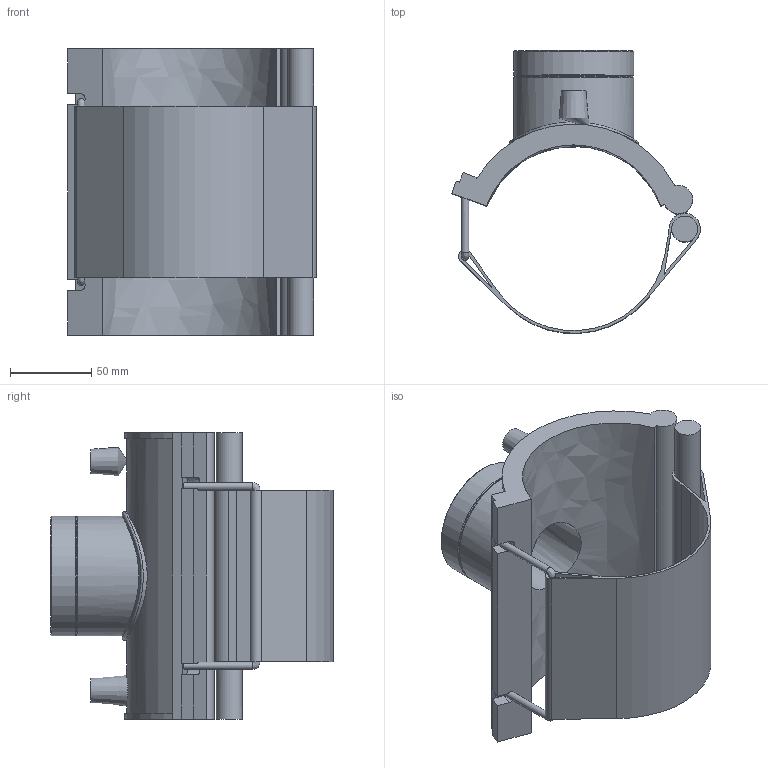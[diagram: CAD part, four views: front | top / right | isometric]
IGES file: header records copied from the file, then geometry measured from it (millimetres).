
Global section: file name: 5938B00304070.ipt; native system: Autodesk Inventor 2019; preprocessor: unknown; author: KIM; date: 20210830.101057; units: inch
Bounding box: 152.91 x 173.87 x 176.02 mm (x, y, z)
Volume: 545415.5 mm3; surface area: 159781.6 mm2
Topology: 1 solids, 2 shells, 80 faces, 205 edges, 133 vertices
Faces by surface type: plane 44, cylinder 19, revolution 11, cone 5, bspline 1
Full cylindrical faces by diameter (mm): 4 x2, 4.564 x2, 15.886 x1, 72.653 x1, 73.653 x2, 79.318 x1
